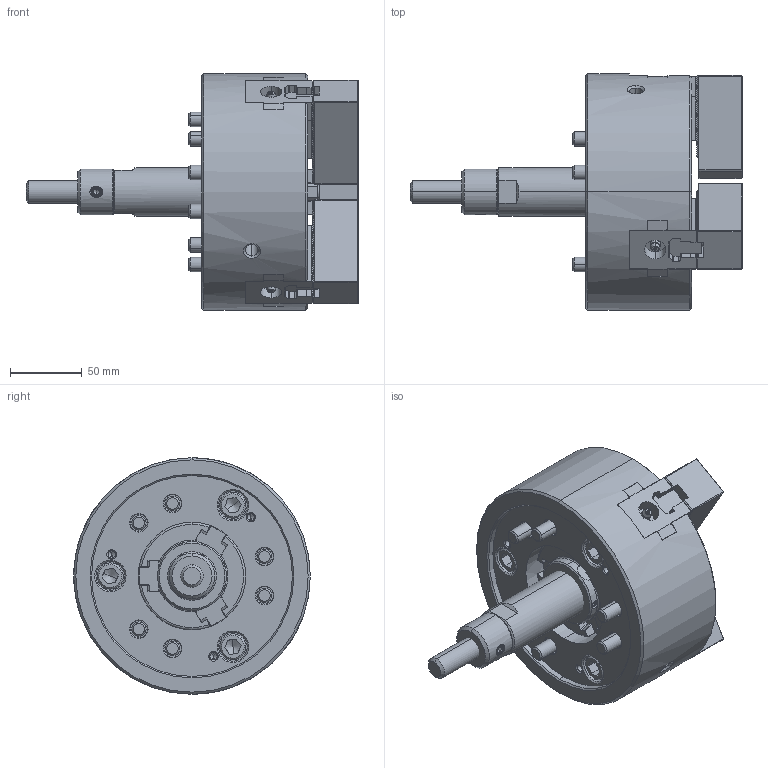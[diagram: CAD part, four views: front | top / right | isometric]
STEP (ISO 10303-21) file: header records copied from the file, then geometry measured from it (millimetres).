
FILE_DESCRIPTION (( 'STEP AP214' ), '1' );
FILE_NAME ('DT1_N-06_OUTSIDE_VIEW_HCL.STEP', '2026-03-13T02:45:21', ( '' ), ( '' ), 'SwSTEP 2.0', 'SolidWorks 2022', '' );
FILE_SCHEMA (( 'AUTOMOTIVE_DESIGN' ));
Length unit declared in the file: millimetre
Products named in the file (11): DT1_N-06_COVER^DT1_N-06; DT1_N-06_BASE^DT1_N-06; DT1_N-06_DRAWSCREW^DT1_N-06; Copy of P31410^DT1_N-06; DT1_N-06_TNUT^DT1_N-06; DT1_N-06_M10x70^DT1_N-06; DT1_N-06_M10x30^DT1_N-06; DT1_N-06_M5x12^DT1_N-06; DT1_N-06_DN^DT1_N-06; DT1_N-06_SOFTJAW^DT1_N-06; DT1_N-06_OUTSIDE_VIEW_HCL
Assembly tree (26 placements, depth 2):
  DT1_N-06_OUTSIDE_VIEW_HCL
    DT1_N-06_SOFTJAW^DT1_N-06  x3
    DT1_N-06_TNUT^DT1_N-06  x3
    DT1_N-06_COVER^DT1_N-06
    DT1_N-06_DRAWSCREW^DT1_N-06
    Copy of P31410^DT1_N-06
    DT1_N-06_DN^DT1_N-06
    DT1_N-06_BASE^DT1_N-06
    DT1_N-06_M5x12^DT1_N-06  x3
    DT1_N-06_M10x30^DT1_N-06  x6
    DT1_N-06_M10x70^DT1_N-06  x6
Bounding box: 231.5 x 165 x 165 mm (x, y, z)
Volume: 1667040.5 mm3; surface area: 269018.8 mm2
Topology: 26 solids, 26 shells, 3686 faces, 10306 edges, 6718 vertices
Faces by surface type: plane 2162, cylinder 971, cone 356, bspline 133, torus 58, sphere 6
Entity records: 88479 total; most frequent: CARTESIAN_POINT 26419, ORIENTED_EDGE 13968, DIRECTION 11190, EDGE_CURVE 6984, VECTOR 4784, LINE 4784, VERTEX_POINT 4566, AXIS2_PLACEMENT_3D 3203
